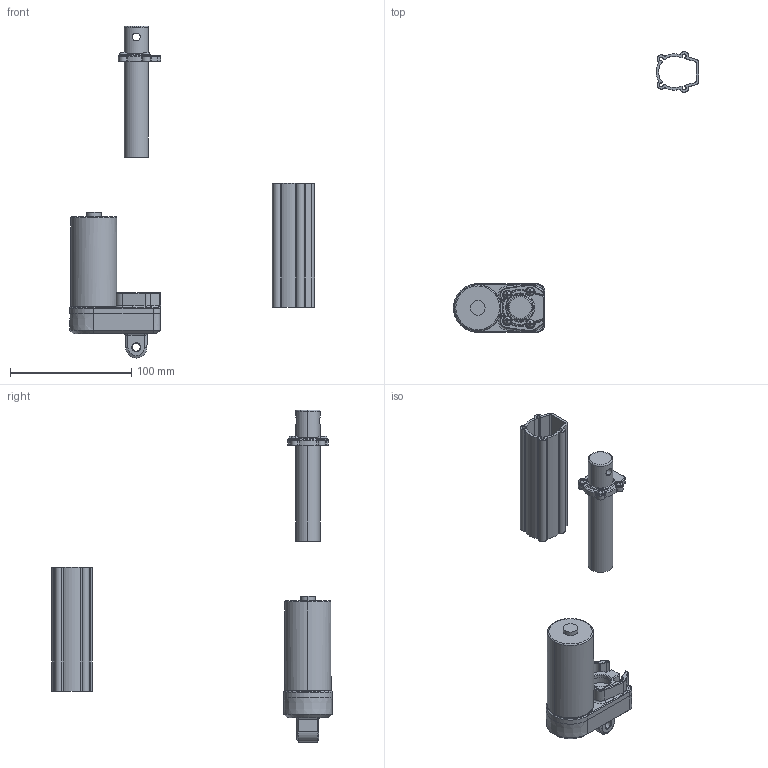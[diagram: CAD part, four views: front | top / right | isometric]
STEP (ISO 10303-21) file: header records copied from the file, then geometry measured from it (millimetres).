
FILE_DESCRIPTION(/* description */ ('Alibre Inc.'),/* implementation_level */ '2;1');
FILE_NAME(/* name */ 'export0',/* time_stamp */ '2008-04-02T10:54:05+02:00',/* author */ (''),/* organization */ (''),/* preprocessor_version */ 'ST-DEVELOPER v10',/* originating_system */ 'Alibre',/* authorisation */ '');
FILE_SCHEMA (('ALIBRE_SCHEMA','CONFIG_CONTROL_DESIGN'));
Length unit declared in the file: millimetre
Products named in the file (4): ID_1
Bounding box: 201.76 x 230.84 x 273.31 mm (x, y, z)
Volume: 193246.2 mm3; surface area: 67888.6 mm2
Topology: 3 solids, 3 shells, 638 faces, 1641 edges, 1013 vertices
Faces by surface type: cylinder 206, plane 181, torus 123, cone 102, bspline 24, sphere 2
Entity records: 44393 total; most frequent: CARTESIAN_POINT 11813, DIRECTION 6338, ORIENTED_EDGE 6276, EDGE_CURVE 3138, AXIS2_PLACEMENT_3D 2878, VERTEX_POINT 1938, CIRCLE 1640, EDGE_LOOP 1308
